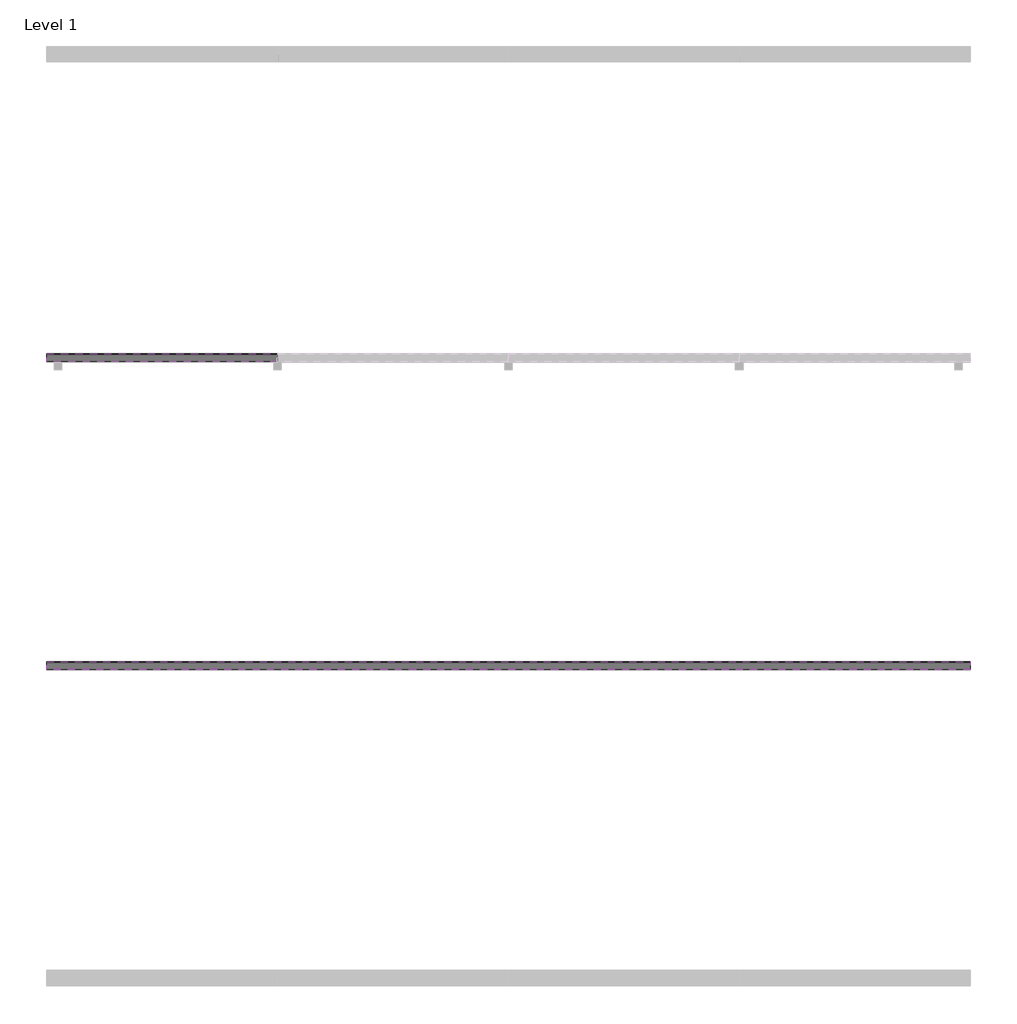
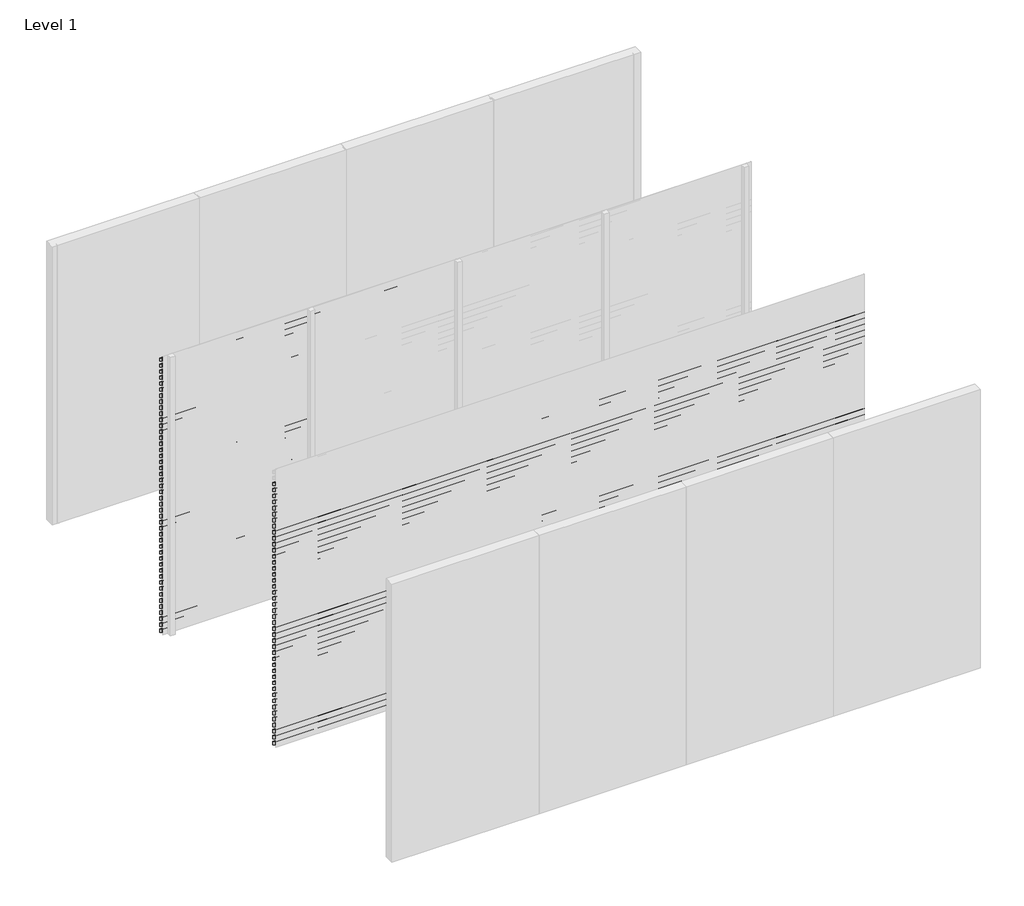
# One storey, part 4 of 10: 97 proxies.
"""IFC4 building model written with IfcOpenShell, lengths in millimetres."""

from ifc_helpers import new_model, si_unit, frame, origin, place, context, project, spatial, polyline, outline, extrude, element, save

model = new_model("IFC4")

# Units and contexts
model_context = context("Model", 3, world=origin())
ifc_project = project(units=[si_unit("LENGTHUNIT", "METRE", prefix="MILLI")], contexts=[model_context])

# Site, building, storey
site = spatial("IfcSite", under=ifc_project)
building = spatial("IfcBuilding", under=site)
storey = spatial("IfcBuildingStorey", under=building, Name="Level 1", Elevation=0.0)

# Proxies
placement = place(None, origin())
element("IfcBuildingElementProxy", 1, Name="Wall Sweeps", at=placement, inside=storey, context=model_context, shape_type="SweptSolid", body=[
    extrude(outline(polyline([(-11995.0, 2990.0), (-11995.0, 2981.2901632), (-11946.0, 2953.0), (-11946.0, 2918.0), (-11997.0, 2947.4448637), (-11997.0, 2990.0), (-11995.0, 2990.0)])), frame((0.0, 0.0, 0.0), z_axis=(1.0, 0.0, 0.0), x_axis=(0.0, 1.0, 0.0)), (0.0, 0.0, 1.0), 1500.0),
])
element("IfcBuildingElementProxy", 2, Name="Wall Sweeps", at=placement, inside=storey, context=model_context, shape_type="SweptSolid", body=[
    extrude(outline(polyline([(-11995.0, 2925.0), (-11995.0, 2916.2901632), (-11946.0, 2888.0), (-11946.0, 2853.0), (-11997.0, 2882.4448637), (-11997.0, 2925.0), (-11995.0, 2925.0)])), frame((0.0, 0.0, 0.0), z_axis=(1.0, 0.0, 0.0), x_axis=(0.0, 1.0, 0.0)), (0.0, 0.0, 1.0), 1500.0),
])
element("IfcBuildingElementProxy", 3, Name="Wall Sweeps", at=placement, inside=storey, context=model_context, shape_type="SweptSolid", body=[
    extrude(outline(polyline([(-11995.0, 2860.0), (-11995.0, 2851.2901632), (-11946.0, 2823.0), (-11946.0, 2788.0), (-11997.0, 2817.4448637), (-11997.0, 2860.0), (-11995.0, 2860.0)])), frame((0.0, 0.0, 0.0), z_axis=(1.0, 0.0, 0.0), x_axis=(0.0, 1.0, 0.0)), (0.0, 0.0, 1.0), 1500.0),
])
element("IfcBuildingElementProxy", 4, Name="Wall Sweeps", at=placement, inside=storey, context=model_context, shape_type="SweptSolid", body=[
    extrude(outline(polyline([(-11995.0, 2795.0), (-11995.0, 2786.2901632), (-11946.0, 2758.0), (-11946.0, 2723.0), (-11997.0, 2752.4448637), (-11997.0, 2795.0), (-11995.0, 2795.0)])), frame((0.0, 0.0, 0.0), z_axis=(1.0, 0.0, 0.0), x_axis=(0.0, 1.0, 0.0)), (0.0, 0.0, 1.0), 1500.0),
])
element("IfcBuildingElementProxy", 5, Name="Wall Sweeps", at=placement, inside=storey, context=model_context, shape_type="SweptSolid", body=[
    extrude(outline(polyline([(-11995.0, 2730.0), (-11995.0, 2721.2901632), (-11946.0, 2693.0), (-11946.0, 2658.0), (-11997.0, 2687.4448637), (-11997.0, 2730.0), (-11995.0, 2730.0)])), frame((0.0, 0.0, 0.0), z_axis=(1.0, 0.0, 0.0), x_axis=(0.0, 1.0, 0.0)), (0.0, 0.0, 1.0), 1500.0),
])
element("IfcBuildingElementProxy", 6, Name="Wall Sweeps", at=placement, inside=storey, context=model_context, shape_type="SweptSolid", body=[
    extrude(outline(polyline([(-11995.0, 2665.0), (-11995.0, 2656.2901632), (-11946.0, 2628.0), (-11946.0, 2593.0), (-11997.0, 2622.4448637), (-11997.0, 2665.0), (-11995.0, 2665.0)])), frame((0.0, 0.0, 0.0), z_axis=(1.0, 0.0, 0.0), x_axis=(0.0, 1.0, 0.0)), (0.0, 0.0, 1.0), 1500.0),
])
element("IfcBuildingElementProxy", 7, Name="Wall Sweeps", at=placement, inside=storey, context=model_context, shape_type="SweptSolid", body=[
    extrude(outline(polyline([(-11995.0, 2600.0), (-11995.0, 2591.2901632), (-11946.0, 2563.0), (-11946.0, 2528.0), (-11997.0, 2557.4448637), (-11997.0, 2600.0), (-11995.0, 2600.0)])), frame((0.0, 0.0, 0.0), z_axis=(1.0, 0.0, 0.0), x_axis=(0.0, 1.0, 0.0)), (0.0, 0.0, 1.0), 1500.0),
])
element("IfcBuildingElementProxy", 8, Name="Wall Sweeps", at=placement, inside=storey, context=model_context, shape_type="SweptSolid", body=[
    extrude(outline(polyline([(-11995.0, 2535.0), (-11995.0, 2526.2901632), (-11946.0, 2498.0), (-11946.0, 2463.0), (-11997.0, 2492.4448637), (-11997.0, 2535.0), (-11995.0, 2535.0)])), frame((0.0, 0.0, 0.0), z_axis=(1.0, 0.0, 0.0), x_axis=(0.0, 1.0, 0.0)), (0.0, 0.0, 1.0), 1500.0),
])
element("IfcBuildingElementProxy", 9, Name="Wall Sweeps", at=placement, inside=storey, context=model_context, shape_type="SweptSolid", body=[
    extrude(outline(polyline([(-11995.0, 2470.0), (-11995.0, 2461.2901632), (-11946.0, 2433.0), (-11946.0, 2398.0), (-11997.0, 2427.4448637), (-11997.0, 2470.0), (-11995.0, 2470.0)])), frame((0.0, 0.0, 0.0), z_axis=(1.0, 0.0, 0.0), x_axis=(0.0, 1.0, 0.0)), (0.0, 0.0, 1.0), 1500.0),
])
element("IfcBuildingElementProxy", 10, Name="Wall Sweeps", at=placement, inside=storey, context=model_context, shape_type="SweptSolid", body=[
    extrude(outline(polyline([(-11995.0, 2405.0), (-11995.0, 2396.2901632), (-11946.0, 2368.0), (-11946.0, 2333.0), (-11997.0, 2362.4448637), (-11997.0, 2405.0), (-11995.0, 2405.0)])), frame((0.0, 0.0, 0.0), z_axis=(1.0, 0.0, 0.0), x_axis=(0.0, 1.0, 0.0)), (0.0, 0.0, 1.0), 1500.0),
])
element("IfcBuildingElementProxy", 11, Name="Wall Sweeps", at=placement, inside=storey, context=model_context, shape_type="SweptSolid", body=[
    extrude(outline(polyline([(-11995.0, 2340.0), (-11995.0, 2331.2901632), (-11946.0, 2303.0), (-11946.0, 2268.0), (-11997.0, 2297.4448637), (-11997.0, 2340.0), (-11995.0, 2340.0)])), frame((0.0, 0.0, 0.0), z_axis=(1.0, 0.0, 0.0), x_axis=(0.0, 1.0, 0.0)), (0.0, 0.0, 1.0), 1500.0),
])
element("IfcBuildingElementProxy", 12, Name="Wall Sweeps", at=placement, inside=storey, context=model_context, shape_type="SweptSolid", body=[
    extrude(outline(polyline([(-11995.0, 2275.0), (-11995.0, 2266.2901632), (-11946.0, 2238.0), (-11946.0, 2203.0), (-11997.0, 2232.4448637), (-11997.0, 2275.0), (-11995.0, 2275.0)])), frame((0.0, 0.0, 0.0), z_axis=(1.0, 0.0, 0.0), x_axis=(0.0, 1.0, 0.0)), (0.0, 0.0, 1.0), 1500.0),
])
element("IfcBuildingElementProxy", 13, Name="Wall Sweeps", at=placement, inside=storey, context=model_context, shape_type="SweptSolid", body=[
    extrude(outline(polyline([(-11995.0, 2210.0), (-11995.0, 2201.2901632), (-11946.0, 2173.0), (-11946.0, 2138.0), (-11997.0, 2167.4448637), (-11997.0, 2210.0), (-11995.0, 2210.0)])), frame((0.0, 0.0, 0.0), z_axis=(1.0, 0.0, 0.0), x_axis=(0.0, 1.0, 0.0)), (0.0, 0.0, 1.0), 1500.0),
])
element("IfcBuildingElementProxy", 14, Name="Wall Sweeps", at=placement, inside=storey, context=model_context, shape_type="SweptSolid", body=[
    extrude(outline(polyline([(-11995.0, 2145.0), (-11995.0, 2136.2901632), (-11946.0, 2108.0), (-11946.0, 2073.0), (-11997.0, 2102.4448637), (-11997.0, 2145.0), (-11995.0, 2145.0)])), frame((0.0, 0.0, 0.0), z_axis=(1.0, 0.0, 0.0), x_axis=(0.0, 1.0, 0.0)), (0.0, 0.0, 1.0), 1500.0),
])
element("IfcBuildingElementProxy", 15, Name="Wall Sweeps", at=placement, inside=storey, context=model_context, shape_type="SweptSolid", body=[
    extrude(outline(polyline([(-11995.0, 2080.0), (-11995.0, 2071.2901632), (-11946.0, 2043.0), (-11946.0, 2008.0), (-11997.0, 2037.4448637), (-11997.0, 2080.0), (-11995.0, 2080.0)])), frame((0.0, 0.0, 0.0), z_axis=(1.0, 0.0, 0.0), x_axis=(0.0, 1.0, 0.0)), (0.0, 0.0, 1.0), 1500.0),
])
element("IfcBuildingElementProxy", 16, Name="Wall Sweeps", at=placement, inside=storey, context=model_context, shape_type="SweptSolid", body=[
    extrude(outline(polyline([(-11995.0, 2015.0), (-11995.0, 2006.2901632), (-11946.0, 1978.0), (-11946.0, 1943.0), (-11997.0, 1972.4448637), (-11997.0, 2015.0), (-11995.0, 2015.0)])), frame((0.0, 0.0, 0.0), z_axis=(1.0, 0.0, 0.0), x_axis=(0.0, 1.0, 0.0)), (0.0, 0.0, 1.0), 1500.0),
])
element("IfcBuildingElementProxy", 17, Name="Wall Sweeps", at=placement, inside=storey, context=model_context, shape_type="SweptSolid", body=[
    extrude(outline(polyline([(-11995.0, 1950.0), (-11995.0, 1941.2901632), (-11946.0, 1913.0), (-11946.0, 1878.0), (-11997.0, 1907.4448637), (-11997.0, 1950.0), (-11995.0, 1950.0)])), frame((0.0, 0.0, 0.0), z_axis=(1.0, 0.0, 0.0), x_axis=(0.0, 1.0, 0.0)), (0.0, 0.0, 1.0), 1500.0),
])
element("IfcBuildingElementProxy", 18, Name="Wall Sweeps", at=placement, inside=storey, context=model_context, shape_type="SweptSolid", body=[
    extrude(outline(polyline([(-11995.0, 1885.0), (-11995.0, 1876.2901632), (-11946.0, 1848.0), (-11946.0, 1813.0), (-11997.0, 1842.4448637), (-11997.0, 1885.0), (-11995.0, 1885.0)])), frame((0.0, 0.0, 0.0), z_axis=(1.0, 0.0, 0.0), x_axis=(0.0, 1.0, 0.0)), (0.0, 0.0, 1.0), 1500.0),
])
element("IfcBuildingElementProxy", 19, Name="Wall Sweeps", at=placement, inside=storey, context=model_context, shape_type="SweptSolid", body=[
    extrude(outline(polyline([(-11995.0, 1820.0), (-11995.0, 1811.2901632), (-11946.0, 1783.0), (-11946.0, 1748.0), (-11997.0, 1777.4448637), (-11997.0, 1820.0), (-11995.0, 1820.0)])), frame((0.0, 0.0, 0.0), z_axis=(1.0, 0.0, 0.0), x_axis=(0.0, 1.0, 0.0)), (0.0, 0.0, 1.0), 1500.0),
])
element("IfcBuildingElementProxy", 20, Name="Wall Sweeps", at=placement, inside=storey, context=model_context, shape_type="SweptSolid", body=[
    extrude(outline(polyline([(-11995.0, 1755.0), (-11995.0, 1746.2901632), (-11946.0, 1718.0), (-11946.0, 1683.0), (-11997.0, 1712.4448637), (-11997.0, 1755.0), (-11995.0, 1755.0)])), frame((0.0, 0.0, 0.0), z_axis=(1.0, 0.0, 0.0), x_axis=(0.0, 1.0, 0.0)), (0.0, 0.0, 1.0), 1500.0),
])
element("IfcBuildingElementProxy", 21, Name="Wall Sweeps", at=placement, inside=storey, context=model_context, shape_type="SweptSolid", body=[
    extrude(outline(polyline([(-11995.0, 1690.0), (-11995.0, 1681.2901632), (-11946.0, 1653.0), (-11946.0, 1618.0), (-11997.0, 1647.4448637), (-11997.0, 1690.0), (-11995.0, 1690.0)])), frame((0.0, 0.0, 0.0), z_axis=(1.0, 0.0, 0.0), x_axis=(0.0, 1.0, 0.0)), (0.0, 0.0, 1.0), 1500.0),
])
element("IfcBuildingElementProxy", 22, Name="Wall Sweeps", at=placement, inside=storey, context=model_context, shape_type="SweptSolid", body=[
    extrude(outline(polyline([(-11995.0, 1625.0), (-11995.0, 1616.2901632), (-11946.0, 1588.0), (-11946.0, 1553.0), (-11997.0, 1582.4448637), (-11997.0, 1625.0), (-11995.0, 1625.0)])), frame((0.0, 0.0, 0.0), z_axis=(1.0, 0.0, 0.0), x_axis=(0.0, 1.0, 0.0)), (0.0, 0.0, 1.0), 1500.0),
])
element("IfcBuildingElementProxy", 23, Name="Wall Sweeps", at=placement, inside=storey, context=model_context, shape_type="SweptSolid", body=[
    extrude(outline(polyline([(-11995.0, 1560.0), (-11995.0, 1551.2901632), (-11946.0, 1523.0), (-11946.0, 1488.0), (-11997.0, 1517.4448637), (-11997.0, 1560.0), (-11995.0, 1560.0)])), frame((0.0, 0.0, 0.0), z_axis=(1.0, 0.0, 0.0), x_axis=(0.0, 1.0, 0.0)), (0.0, 0.0, 1.0), 1500.0),
])
element("IfcBuildingElementProxy", 24, Name="Wall Sweeps", at=placement, inside=storey, context=model_context, shape_type="SweptSolid", body=[
    extrude(outline(polyline([(-11995.0, 1495.0), (-11995.0, 1486.2901632), (-11946.0, 1458.0), (-11946.0, 1423.0), (-11997.0, 1452.4448637), (-11997.0, 1495.0), (-11995.0, 1495.0)])), frame((0.0, 0.0, 0.0), z_axis=(1.0, 0.0, 0.0), x_axis=(0.0, 1.0, 0.0)), (0.0, 0.0, 1.0), 1500.0),
])
element("IfcBuildingElementProxy", 25, Name="Wall Sweeps", at=placement, inside=storey, context=model_context, shape_type="SweptSolid", body=[
    extrude(outline(polyline([(-11995.0, 1430.0), (-11995.0, 1421.2901632), (-11946.0, 1393.0), (-11946.0, 1358.0), (-11997.0, 1387.4448637), (-11997.0, 1430.0), (-11995.0, 1430.0)])), frame((0.0, 0.0, 0.0), z_axis=(1.0, 0.0, 0.0), x_axis=(0.0, 1.0, 0.0)), (0.0, 0.0, 1.0), 1500.0),
])
element("IfcBuildingElementProxy", 26, Name="Wall Sweeps", at=placement, inside=storey, context=model_context, shape_type="SweptSolid", body=[
    extrude(outline(polyline([(-11995.0, 1365.0), (-11995.0, 1356.2901632), (-11946.0, 1328.0), (-11946.0, 1293.0), (-11997.0, 1322.4448637), (-11997.0, 1365.0), (-11995.0, 1365.0)])), frame((0.0, 0.0, 0.0), z_axis=(1.0, 0.0, 0.0), x_axis=(0.0, 1.0, 0.0)), (0.0, 0.0, 1.0), 1500.0),
])
element("IfcBuildingElementProxy", 27, Name="Wall Sweeps", at=placement, inside=storey, context=model_context, shape_type="SweptSolid", body=[
    extrude(outline(polyline([(-11995.0, 1300.0), (-11995.0, 1291.2901632), (-11946.0, 1263.0), (-11946.0, 1228.0), (-11997.0, 1257.4448637), (-11997.0, 1300.0), (-11995.0, 1300.0)])), frame((0.0, 0.0, 0.0), z_axis=(1.0, 0.0, 0.0), x_axis=(0.0, 1.0, 0.0)), (0.0, 0.0, 1.0), 1500.0),
])
element("IfcBuildingElementProxy", 28, Name="Wall Sweeps", at=placement, inside=storey, context=model_context, shape_type="SweptSolid", body=[
    extrude(outline(polyline([(-11995.0, 1235.0), (-11995.0, 1226.2901632), (-11946.0, 1198.0), (-11946.0, 1163.0), (-11997.0, 1192.4448637), (-11997.0, 1235.0), (-11995.0, 1235.0)])), frame((0.0, 0.0, 0.0), z_axis=(1.0, 0.0, 0.0), x_axis=(0.0, 1.0, 0.0)), (0.0, 0.0, 1.0), 1500.0),
])
element("IfcBuildingElementProxy", 29, Name="Wall Sweeps", at=placement, inside=storey, context=model_context, shape_type="SweptSolid", body=[
    extrude(outline(polyline([(-11995.0, 1170.0), (-11995.0, 1161.2901632), (-11946.0, 1133.0), (-11946.0, 1098.0), (-11997.0, 1127.4448637), (-11997.0, 1170.0), (-11995.0, 1170.0)])), frame((0.0, 0.0, 0.0), z_axis=(1.0, 0.0, 0.0), x_axis=(0.0, 1.0, 0.0)), (0.0, 0.0, 1.0), 1500.0),
])
element("IfcBuildingElementProxy", 30, Name="Wall Sweeps", at=placement, inside=storey, context=model_context, shape_type="SweptSolid", body=[
    extrude(outline(polyline([(-11995.0, 1105.0), (-11995.0, 1096.2901632), (-11946.0, 1068.0), (-11946.0, 1033.0), (-11997.0, 1062.4448637), (-11997.0, 1105.0), (-11995.0, 1105.0)])), frame((0.0, 0.0, 0.0), z_axis=(1.0, 0.0, 0.0), x_axis=(0.0, 1.0, 0.0)), (0.0, 0.0, 1.0), 1500.0),
])
element("IfcBuildingElementProxy", 31, Name="Wall Sweeps", at=placement, inside=storey, context=model_context, shape_type="SweptSolid", body=[
    extrude(outline(polyline([(-11995.0, 1040.0), (-11995.0, 1031.2901632), (-11946.0, 1003.0), (-11946.0, 968.0), (-11997.0, 997.4448637), (-11997.0, 1040.0), (-11995.0, 1040.0)])), frame((0.0, 0.0, 0.0), z_axis=(1.0, 0.0, 0.0), x_axis=(0.0, 1.0, 0.0)), (0.0, 0.0, 1.0), 1500.0),
])
element("IfcBuildingElementProxy", 32, Name="Wall Sweeps", at=placement, inside=storey, context=model_context, shape_type="SweptSolid", body=[
    extrude(outline(polyline([(-11995.0, 975.0), (-11995.0, 966.2901632), (-11946.0, 938.0), (-11946.0, 903.0), (-11997.0, 932.4448637), (-11997.0, 975.0), (-11995.0, 975.0)])), frame((0.0, 0.0, 0.0), z_axis=(1.0, 0.0, 0.0), x_axis=(0.0, 1.0, 0.0)), (0.0, 0.0, 1.0), 1500.0),
])
element("IfcBuildingElementProxy", 33, Name="Wall Sweeps", at=placement, inside=storey, context=model_context, shape_type="SweptSolid", body=[
    extrude(outline(polyline([(-11995.0, 910.0), (-11995.0, 901.2901632), (-11946.0, 873.0), (-11946.0, 838.0), (-11997.0, 867.4448637), (-11997.0, 910.0), (-11995.0, 910.0)])), frame((0.0, 0.0, 0.0), z_axis=(1.0, 0.0, 0.0), x_axis=(0.0, 1.0, 0.0)), (0.0, 0.0, 1.0), 1500.0),
])
element("IfcBuildingElementProxy", 34, Name="Wall Sweeps", at=placement, inside=storey, context=model_context, shape_type="SweptSolid", body=[
    extrude(outline(polyline([(-11995.0, 845.0), (-11995.0, 836.2901632), (-11946.0, 808.0), (-11946.0, 773.0), (-11997.0, 802.4448637), (-11997.0, 845.0), (-11995.0, 845.0)])), frame((0.0, 0.0, 0.0), z_axis=(1.0, 0.0, 0.0), x_axis=(0.0, 1.0, 0.0)), (0.0, 0.0, 1.0), 1500.0),
])
element("IfcBuildingElementProxy", 35, Name="Wall Sweeps", at=placement, inside=storey, context=model_context, shape_type="SweptSolid", body=[
    extrude(outline(polyline([(-11995.0, 780.0), (-11995.0, 771.2901632), (-11946.0, 743.0), (-11946.0, 708.0), (-11997.0, 737.4448637), (-11997.0, 780.0), (-11995.0, 780.0)])), frame((0.0, 0.0, 0.0), z_axis=(1.0, 0.0, 0.0), x_axis=(0.0, 1.0, 0.0)), (0.0, 0.0, 1.0), 1500.0),
])
element("IfcBuildingElementProxy", 36, Name="Wall Sweeps", at=placement, inside=storey, context=model_context, shape_type="SweptSolid", body=[
    extrude(outline(polyline([(-11995.0, 715.0), (-11995.0, 706.2901632), (-11946.0, 678.0), (-11946.0, 643.0), (-11997.0, 672.4448637), (-11997.0, 715.0), (-11995.0, 715.0)])), frame((0.0, 0.0, 0.0), z_axis=(1.0, 0.0, 0.0), x_axis=(0.0, 1.0, 0.0)), (0.0, 0.0, 1.0), 1500.0),
])
element("IfcBuildingElementProxy", 37, Name="Wall Sweeps", at=placement, inside=storey, context=model_context, shape_type="SweptSolid", body=[
    extrude(outline(polyline([(-11995.0, 650.0), (-11995.0, 641.2901632), (-11946.0, 613.0), (-11946.0, 578.0), (-11997.0, 607.4448637), (-11997.0, 650.0), (-11995.0, 650.0)])), frame((0.0, 0.0, 0.0), z_axis=(1.0, 0.0, 0.0), x_axis=(0.0, 1.0, 0.0)), (0.0, 0.0, 1.0), 1500.0),
])
element("IfcBuildingElementProxy", 38, Name="Wall Sweeps", at=placement, inside=storey, context=model_context, shape_type="SweptSolid", body=[
    extrude(outline(polyline([(-11995.0, 585.0), (-11995.0, 576.2901632), (-11946.0, 548.0), (-11946.0, 513.0), (-11997.0, 542.4448637), (-11997.0, 585.0), (-11995.0, 585.0)])), frame((0.0, 0.0, 0.0), z_axis=(1.0, 0.0, 0.0), x_axis=(0.0, 1.0, 0.0)), (0.0, 0.0, 1.0), 1500.0),
])
element("IfcBuildingElementProxy", 39, Name="Wall Sweeps", at=placement, inside=storey, context=model_context, shape_type="SweptSolid", body=[
    extrude(outline(polyline([(-11995.0, 520.0), (-11995.0, 511.2901632), (-11946.0, 483.0), (-11946.0, 448.0), (-11997.0, 477.4448637), (-11997.0, 520.0), (-11995.0, 520.0)])), frame((0.0, 0.0, 0.0), z_axis=(1.0, 0.0, 0.0), x_axis=(0.0, 1.0, 0.0)), (0.0, 0.0, 1.0), 1500.0),
])
element("IfcBuildingElementProxy", 40, Name="Wall Sweeps", at=placement, inside=storey, context=model_context, shape_type="SweptSolid", body=[
    extrude(outline(polyline([(-11995.0, 455.0), (-11995.0, 446.2901632), (-11946.0, 418.0), (-11946.0, 383.0), (-11997.0, 412.4448637), (-11997.0, 455.0), (-11995.0, 455.0)])), frame((0.0, 0.0, 0.0), z_axis=(1.0, 0.0, 0.0), x_axis=(0.0, 1.0, 0.0)), (0.0, 0.0, 1.0), 1500.0),
])
element("IfcBuildingElementProxy", 41, Name="Wall Sweeps", at=placement, inside=storey, context=model_context, shape_type="SweptSolid", body=[
    extrude(outline(polyline([(-11995.0, 390.0), (-11995.0, 381.2901632), (-11946.0, 353.0), (-11946.0, 318.0), (-11997.0, 347.4448637), (-11997.0, 390.0), (-11995.0, 390.0)])), frame((0.0, 0.0, 0.0), z_axis=(1.0, 0.0, 0.0), x_axis=(0.0, 1.0, 0.0)), (0.0, 0.0, 1.0), 1500.0),
])
element("IfcBuildingElementProxy", 42, Name="Wall Sweeps", at=placement, inside=storey, context=model_context, shape_type="SweptSolid", body=[
    extrude(outline(polyline([(-11995.0, 325.0), (-11995.0, 316.2901632), (-11946.0, 288.0), (-11946.0, 253.0), (-11997.0, 282.4448637), (-11997.0, 325.0), (-11995.0, 325.0)])), frame((0.0, 0.0, 0.0), z_axis=(1.0, 0.0, 0.0), x_axis=(0.0, 1.0, 0.0)), (0.0, 0.0, 1.0), 1500.0),
])
element("IfcBuildingElementProxy", 43, Name="Wall Sweeps", at=placement, inside=storey, context=model_context, shape_type="SweptSolid", body=[
    extrude(outline(polyline([(-11995.0, 260.0), (-11995.0, 251.2901632), (-11946.0, 223.0), (-11946.0, 188.0), (-11997.0, 217.4448637), (-11997.0, 260.0), (-11995.0, 260.0)])), frame((0.0, 0.0, 0.0), z_axis=(1.0, 0.0, 0.0), x_axis=(0.0, 1.0, 0.0)), (0.0, 0.0, 1.0), 1500.0),
])
element("IfcBuildingElementProxy", 44, Name="Wall Sweeps", at=placement, inside=storey, context=model_context, shape_type="SweptSolid", body=[
    extrude(outline(polyline([(-11995.0, 195.0), (-11995.0, 186.2901632), (-11946.0, 158.0), (-11946.0, 123.0), (-11997.0, 152.4448637), (-11997.0, 195.0), (-11995.0, 195.0)])), frame((0.0, 0.0, 0.0), z_axis=(1.0, 0.0, 0.0), x_axis=(0.0, 1.0, 0.0)), (0.0, 0.0, 1.0), 1500.0),
])
element("IfcBuildingElementProxy", 45, Name="Wall Sweeps", at=placement, inside=storey, context=model_context, shape_type="SweptSolid", body=[
    extrude(outline(polyline([(-11995.0, 130.0), (-11995.0, 121.2901632), (-11946.0, 93.0), (-11946.0, 58.0), (-11997.0, 87.4448637), (-11997.0, 130.0), (-11995.0, 130.0)])), frame((0.0, 0.0, 0.0), z_axis=(1.0, 0.0, 0.0), x_axis=(0.0, 1.0, 0.0)), (0.0, 0.0, 1.0), 1500.0),
])
element("IfcBuildingElementProxy", 46, Name="Wall Sweeps", at=placement, inside=storey, context=model_context, shape_type="SweptSolid", body=[
    extrude(outline(polyline([(-11995.0, 65.0), (-11995.0, 56.2901632), (-11946.0, 28.0), (-11946.0, -7.0), (-11997.0, 22.4448637), (-11997.0, 65.0), (-11995.0, 65.0)])), frame((0.0, 0.0, 0.0), z_axis=(1.0, 0.0, 0.0), x_axis=(0.0, 1.0, 0.0)), (0.0, 0.0, 1.0), 1500.0),
])
element("IfcBuildingElementProxy", 47, Name="Wall Sweeps", at=placement, inside=storey, context=model_context, shape_type="SweptSolid", body=[
    extrude(outline(polyline([(-11995.0, 2990.0), (-11995.0, 2981.2901632), (-11946.0, 2953.0), (-11946.0, 2918.0), (-11997.0, 2947.4448637), (-11997.0, 2990.0), (-11995.0, 2990.0)])), frame((1500.0, 0.0, 0.0), z_axis=(1.0, 0.0, 0.0), x_axis=(0.0, 1.0, 0.0)), (0.0, 0.0, 1.0), 1500.0),
])
element("IfcBuildingElementProxy", 48, Name="Wall Sweeps", at=placement, inside=storey, context=model_context, shape_type="SweptSolid", body=[
    extrude(outline(polyline([(-11995.0, 2925.0), (-11995.0, 2916.2901632), (-11946.0, 2888.0), (-11946.0, 2853.0), (-11997.0, 2882.4448637), (-11997.0, 2925.0), (-11995.0, 2925.0)])), frame((1500.0, 0.0, 0.0), z_axis=(1.0, 0.0, 0.0), x_axis=(0.0, 1.0, 0.0)), (0.0, 0.0, 1.0), 1500.0),
])
element("IfcBuildingElementProxy", 49, Name="Wall Sweeps", at=placement, inside=storey, context=model_context, shape_type="SweptSolid", body=[
    extrude(outline(polyline([(-11995.0, 2860.0), (-11995.0, 2851.2901632), (-11946.0, 2823.0), (-11946.0, 2788.0), (-11997.0, 2817.4448637), (-11997.0, 2860.0), (-11995.0, 2860.0)])), frame((1500.0, 0.0, 0.0), z_axis=(1.0, 0.0, 0.0), x_axis=(0.0, 1.0, 0.0)), (0.0, 0.0, 1.0), 1500.0),
])
element("IfcBuildingElementProxy", 50, Name="Wall Sweeps", at=placement, inside=storey, context=model_context, shape_type="SweptSolid", body=[
    extrude(outline(polyline([(-11995.0, 2795.0), (-11995.0, 2786.2901632), (-11946.0, 2758.0), (-11946.0, 2723.0), (-11997.0, 2752.4448637), (-11997.0, 2795.0), (-11995.0, 2795.0)])), frame((1500.0, 0.0, 0.0), z_axis=(1.0, 0.0, 0.0), x_axis=(0.0, 1.0, 0.0)), (0.0, 0.0, 1.0), 1500.0),
])
element("IfcBuildingElementProxy", 51, Name="Wall Sweeps", at=placement, inside=storey, context=model_context, shape_type="SweptSolid", body=[
    extrude(outline(polyline([(-11995.0, 2730.0), (-11995.0, 2721.2901632), (-11946.0, 2693.0), (-11946.0, 2658.0), (-11997.0, 2687.4448637), (-11997.0, 2730.0), (-11995.0, 2730.0)])), frame((1500.0, 0.0, 0.0), z_axis=(1.0, 0.0, 0.0), x_axis=(0.0, 1.0, 0.0)), (0.0, 0.0, 1.0), 1500.0),
])
element("IfcBuildingElementProxy", 52, Name="Wall Sweeps", at=placement, inside=storey, context=model_context, shape_type="SweptSolid", body=[
    extrude(outline(polyline([(-11995.0, 2665.0), (-11995.0, 2656.2901632), (-11946.0, 2628.0), (-11946.0, 2593.0), (-11997.0, 2622.4448637), (-11997.0, 2665.0), (-11995.0, 2665.0)])), frame((1500.0, 0.0, 0.0), z_axis=(1.0, 0.0, 0.0), x_axis=(0.0, 1.0, 0.0)), (0.0, 0.0, 1.0), 1500.0),
])
element("IfcBuildingElementProxy", 53, Name="Wall Sweeps", at=placement, inside=storey, context=model_context, shape_type="SweptSolid", body=[
    extrude(outline(polyline([(-11995.0, 2600.0), (-11995.0, 2591.2901632), (-11946.0, 2563.0), (-11946.0, 2528.0), (-11997.0, 2557.4448637), (-11997.0, 2600.0), (-11995.0, 2600.0)])), frame((1500.0, 0.0, 0.0), z_axis=(1.0, 0.0, 0.0), x_axis=(0.0, 1.0, 0.0)), (0.0, 0.0, 1.0), 1500.0),
])
element("IfcBuildingElementProxy", 54, Name="Wall Sweeps", at=placement, inside=storey, context=model_context, shape_type="SweptSolid", body=[
    extrude(outline(polyline([(-13995.0, 2860.0), (-13995.0, 2851.2901632), (-13946.0, 2823.0), (-13946.0, 2788.0), (-13997.0, 2817.4448637), (-13997.0, 2860.0), (-13995.0, 2860.0)])), frame((0.0, 0.0, 0.0), z_axis=(1.0, 0.0, 0.0), x_axis=(0.0, 1.0, 0.0)), (0.0, 0.0, 1.0), 6000.0),
])
element("IfcBuildingElementProxy", 55, Name="Wall Sweeps", at=placement, inside=storey, context=model_context, shape_type="SweptSolid", body=[
    extrude(outline(polyline([(-13995.0, 2795.0), (-13995.0, 2786.2901632), (-13946.0, 2758.0), (-13946.0, 2723.0), (-13997.0, 2752.4448637), (-13997.0, 2795.0), (-13995.0, 2795.0)])), frame((0.0, 0.0, 0.0), z_axis=(1.0, 0.0, 0.0), x_axis=(0.0, 1.0, 0.0)), (0.0, 0.0, 1.0), 6000.0),
])
element("IfcBuildingElementProxy", 56, Name="Wall Sweeps", at=placement, inside=storey, context=model_context, shape_type="SweptSolid", body=[
    extrude(outline(polyline([(-13995.0, 2730.0), (-13995.0, 2721.2901632), (-13946.0, 2693.0), (-13946.0, 2658.0), (-13997.0, 2687.4448637), (-13997.0, 2730.0), (-13995.0, 2730.0)])), frame((0.0, 0.0, 0.0), z_axis=(1.0, 0.0, 0.0), x_axis=(0.0, 1.0, 0.0)), (0.0, 0.0, 1.0), 6000.0),
])
element("IfcBuildingElementProxy", 57, Name="Wall Sweeps", at=placement, inside=storey, context=model_context, shape_type="SweptSolid", body=[
    extrude(outline(polyline([(-13995.0, 2665.0), (-13995.0, 2656.2901632), (-13946.0, 2628.0), (-13946.0, 2593.0), (-13997.0, 2622.4448637), (-13997.0, 2665.0), (-13995.0, 2665.0)])), frame((0.0, 0.0, 0.0), z_axis=(1.0, 0.0, 0.0), x_axis=(0.0, 1.0, 0.0)), (0.0, 0.0, 1.0), 6000.0),
])
element("IfcBuildingElementProxy", 58, Name="Wall Sweeps", at=placement, inside=storey, context=model_context, shape_type="SweptSolid", body=[
    extrude(outline(polyline([(-13995.0, 2600.0), (-13995.0, 2591.2901632), (-13946.0, 2563.0), (-13946.0, 2528.0), (-13997.0, 2557.4448637), (-13997.0, 2600.0), (-13995.0, 2600.0)])), frame((0.0, 0.0, 0.0), z_axis=(1.0, 0.0, 0.0), x_axis=(0.0, 1.0, 0.0)), (0.0, 0.0, 1.0), 6000.0),
])
element("IfcBuildingElementProxy", 59, Name="Wall Sweeps", at=placement, inside=storey, context=model_context, shape_type="SweptSolid", body=[
    extrude(outline(polyline([(-13995.0, 2535.0), (-13995.0, 2526.2901632), (-13946.0, 2498.0), (-13946.0, 2463.0), (-13997.0, 2492.4448637), (-13997.0, 2535.0), (-13995.0, 2535.0)])), frame((0.0, 0.0, 0.0), z_axis=(1.0, 0.0, 0.0), x_axis=(0.0, 1.0, 0.0)), (0.0, 0.0, 1.0), 6000.0),
])
element("IfcBuildingElementProxy", 60, Name="Wall Sweeps", at=placement, inside=storey, context=model_context, shape_type="SweptSolid", body=[
    extrude(outline(polyline([(-13995.0, 2470.0), (-13995.0, 2461.2901632), (-13946.0, 2433.0), (-13946.0, 2398.0), (-13997.0, 2427.4448637), (-13997.0, 2470.0), (-13995.0, 2470.0)])), frame((0.0, 0.0, 0.0), z_axis=(1.0, 0.0, 0.0), x_axis=(0.0, 1.0, 0.0)), (0.0, 0.0, 1.0), 6000.0),
])
element("IfcBuildingElementProxy", 61, Name="Wall Sweeps", at=placement, inside=storey, context=model_context, shape_type="SweptSolid", body=[
    extrude(outline(polyline([(-13995.0, 2405.0), (-13995.0, 2396.2901632), (-13946.0, 2368.0), (-13946.0, 2333.0), (-13997.0, 2362.4448637), (-13997.0, 2405.0), (-13995.0, 2405.0)])), frame((0.0, 0.0, 0.0), z_axis=(1.0, 0.0, 0.0), x_axis=(0.0, 1.0, 0.0)), (0.0, 0.0, 1.0), 6000.0),
])
element("IfcBuildingElementProxy", 62, Name="Wall Sweeps", at=placement, inside=storey, context=model_context, shape_type="SweptSolid", body=[
    extrude(outline(polyline([(-13995.0, 2340.0), (-13995.0, 2331.2901632), (-13946.0, 2303.0), (-13946.0, 2268.0), (-13997.0, 2297.4448637), (-13997.0, 2340.0), (-13995.0, 2340.0)])), frame((0.0, 0.0, 0.0), z_axis=(1.0, 0.0, 0.0), x_axis=(0.0, 1.0, 0.0)), (0.0, 0.0, 1.0), 6000.0),
])
element("IfcBuildingElementProxy", 63, Name="Wall Sweeps", at=placement, inside=storey, context=model_context, shape_type="SweptSolid", body=[
    extrude(outline(polyline([(-13995.0, 2275.0), (-13995.0, 2266.2901632), (-13946.0, 2238.0), (-13946.0, 2203.0), (-13997.0, 2232.4448637), (-13997.0, 2275.0), (-13995.0, 2275.0)])), frame((0.0, 0.0, 0.0), z_axis=(1.0, 0.0, 0.0), x_axis=(0.0, 1.0, 0.0)), (0.0, 0.0, 1.0), 6000.0),
])
element("IfcBuildingElementProxy", 64, Name="Wall Sweeps", at=placement, inside=storey, context=model_context, shape_type="SweptSolid", body=[
    extrude(outline(polyline([(-13995.0, 2210.0), (-13995.0, 2201.2901632), (-13946.0, 2173.0), (-13946.0, 2138.0), (-13997.0, 2167.4448637), (-13997.0, 2210.0), (-13995.0, 2210.0)])), frame((0.0, 0.0, 0.0), z_axis=(1.0, 0.0, 0.0), x_axis=(0.0, 1.0, 0.0)), (0.0, 0.0, 1.0), 6000.0),
])
element("IfcBuildingElementProxy", 65, Name="Wall Sweeps", at=placement, inside=storey, context=model_context, shape_type="SweptSolid", body=[
    extrude(outline(polyline([(-13995.0, 2145.0), (-13995.0, 2136.2901632), (-13946.0, 2108.0), (-13946.0, 2073.0), (-13997.0, 2102.4448637), (-13997.0, 2145.0), (-13995.0, 2145.0)])), frame((0.0, 0.0, 0.0), z_axis=(1.0, 0.0, 0.0), x_axis=(0.0, 1.0, 0.0)), (0.0, 0.0, 1.0), 6000.0),
])
element("IfcBuildingElementProxy", 66, Name="Wall Sweeps", at=placement, inside=storey, context=model_context, shape_type="SweptSolid", body=[
    extrude(outline(polyline([(-13995.0, 2080.0), (-13995.0, 2071.2901632), (-13946.0, 2043.0), (-13946.0, 2008.0), (-13997.0, 2037.4448637), (-13997.0, 2080.0), (-13995.0, 2080.0)])), frame((0.0, 0.0, 0.0), z_axis=(1.0, 0.0, 0.0), x_axis=(0.0, 1.0, 0.0)), (0.0, 0.0, 1.0), 6000.0),
])
element("IfcBuildingElementProxy", 67, Name="Wall Sweeps", at=placement, inside=storey, context=model_context, shape_type="SweptSolid", body=[
    extrude(outline(polyline([(-13995.0, 2015.0), (-13995.0, 2006.2901632), (-13946.0, 1978.0), (-13946.0, 1943.0), (-13997.0, 1972.4448637), (-13997.0, 2015.0), (-13995.0, 2015.0)])), frame((0.0, 0.0, 0.0), z_axis=(1.0, 0.0, 0.0), x_axis=(0.0, 1.0, 0.0)), (0.0, 0.0, 1.0), 6000.0),
])
element("IfcBuildingElementProxy", 68, Name="Wall Sweeps", at=placement, inside=storey, context=model_context, shape_type="SweptSolid", body=[
    extrude(outline(polyline([(-13995.0, 1950.0), (-13995.0, 1941.2901632), (-13946.0, 1913.0), (-13946.0, 1878.0), (-13997.0, 1907.4448637), (-13997.0, 1950.0), (-13995.0, 1950.0)])), frame((0.0, 0.0, 0.0), z_axis=(1.0, 0.0, 0.0), x_axis=(0.0, 1.0, 0.0)), (0.0, 0.0, 1.0), 6000.0),
])
element("IfcBuildingElementProxy", 69, Name="Wall Sweeps", at=placement, inside=storey, context=model_context, shape_type="SweptSolid", body=[
    extrude(outline(polyline([(-13995.0, 1885.0), (-13995.0, 1876.2901632), (-13946.0, 1848.0), (-13946.0, 1813.0), (-13997.0, 1842.4448637), (-13997.0, 1885.0), (-13995.0, 1885.0)])), frame((0.0, 0.0, 0.0), z_axis=(1.0, 0.0, 0.0), x_axis=(0.0, 1.0, 0.0)), (0.0, 0.0, 1.0), 6000.0),
])
element("IfcBuildingElementProxy", 70, Name="Wall Sweeps", at=placement, inside=storey, context=model_context, shape_type="SweptSolid", body=[
    extrude(outline(polyline([(-13995.0, 1820.0), (-13995.0, 1811.2901632), (-13946.0, 1783.0), (-13946.0, 1748.0), (-13997.0, 1777.4448637), (-13997.0, 1820.0), (-13995.0, 1820.0)])), frame((0.0, 0.0, 0.0), z_axis=(1.0, 0.0, 0.0), x_axis=(0.0, 1.0, 0.0)), (0.0, 0.0, 1.0), 6000.0),
])
element("IfcBuildingElementProxy", 71, Name="Wall Sweeps", at=placement, inside=storey, context=model_context, shape_type="SweptSolid", body=[
    extrude(outline(polyline([(-13995.0, 1755.0), (-13995.0, 1746.2901632), (-13946.0, 1718.0), (-13946.0, 1683.0), (-13997.0, 1712.4448637), (-13997.0, 1755.0), (-13995.0, 1755.0)])), frame((0.0, 0.0, 0.0), z_axis=(1.0, 0.0, 0.0), x_axis=(0.0, 1.0, 0.0)), (0.0, 0.0, 1.0), 6000.0),
])
element("IfcBuildingElementProxy", 72, Name="Wall Sweeps", at=placement, inside=storey, context=model_context, shape_type="SweptSolid", body=[
    extrude(outline(polyline([(-13995.0, 1690.0), (-13995.0, 1681.2901632), (-13946.0, 1653.0), (-13946.0, 1618.0), (-13997.0, 1647.4448637), (-13997.0, 1690.0), (-13995.0, 1690.0)])), frame((0.0, 0.0, 0.0), z_axis=(1.0, 0.0, 0.0), x_axis=(0.0, 1.0, 0.0)), (0.0, 0.0, 1.0), 6000.0),
])
element("IfcBuildingElementProxy", 73, Name="Wall Sweeps", at=placement, inside=storey, context=model_context, shape_type="SweptSolid", body=[
    extrude(outline(polyline([(-13995.0, 1625.0), (-13995.0, 1616.2901632), (-13946.0, 1588.0), (-13946.0, 1553.0), (-13997.0, 1582.4448637), (-13997.0, 1625.0), (-13995.0, 1625.0)])), frame((0.0, 0.0, 0.0), z_axis=(1.0, 0.0, 0.0), x_axis=(0.0, 1.0, 0.0)), (0.0, 0.0, 1.0), 6000.0),
])
element("IfcBuildingElementProxy", 74, Name="Wall Sweeps", at=placement, inside=storey, context=model_context, shape_type="SweptSolid", body=[
    extrude(outline(polyline([(-13995.0, 1560.0), (-13995.0, 1551.2901632), (-13946.0, 1523.0), (-13946.0, 1488.0), (-13997.0, 1517.4448637), (-13997.0, 1560.0), (-13995.0, 1560.0)])), frame((0.0, 0.0, 0.0), z_axis=(1.0, 0.0, 0.0), x_axis=(0.0, 1.0, 0.0)), (0.0, 0.0, 1.0), 6000.0),
])
element("IfcBuildingElementProxy", 75, Name="Wall Sweeps", at=placement, inside=storey, context=model_context, shape_type="SweptSolid", body=[
    extrude(outline(polyline([(-13995.0, 1495.0), (-13995.0, 1486.2901632), (-13946.0, 1458.0), (-13946.0, 1423.0), (-13997.0, 1452.4448637), (-13997.0, 1495.0), (-13995.0, 1495.0)])), frame((0.0, 0.0, 0.0), z_axis=(1.0, 0.0, 0.0), x_axis=(0.0, 1.0, 0.0)), (0.0, 0.0, 1.0), 6000.0),
])
element("IfcBuildingElementProxy", 76, Name="Wall Sweeps", at=placement, inside=storey, context=model_context, shape_type="SweptSolid", body=[
    extrude(outline(polyline([(-13995.0, 1430.0), (-13995.0, 1421.2901632), (-13946.0, 1393.0), (-13946.0, 1358.0), (-13997.0, 1387.4448637), (-13997.0, 1430.0), (-13995.0, 1430.0)])), frame((0.0, 0.0, 0.0), z_axis=(1.0, 0.0, 0.0), x_axis=(0.0, 1.0, 0.0)), (0.0, 0.0, 1.0), 6000.0),
])
element("IfcBuildingElementProxy", 77, Name="Wall Sweeps", at=placement, inside=storey, context=model_context, shape_type="SweptSolid", body=[
    extrude(outline(polyline([(-13995.0, 1365.0), (-13995.0, 1356.2901632), (-13946.0, 1328.0), (-13946.0, 1293.0), (-13997.0, 1322.4448637), (-13997.0, 1365.0), (-13995.0, 1365.0)])), frame((0.0, 0.0, 0.0), z_axis=(1.0, 0.0, 0.0), x_axis=(0.0, 1.0, 0.0)), (0.0, 0.0, 1.0), 6000.0),
])
element("IfcBuildingElementProxy", 78, Name="Wall Sweeps", at=placement, inside=storey, context=model_context, shape_type="SweptSolid", body=[
    extrude(outline(polyline([(-13995.0, 1300.0), (-13995.0, 1291.2901632), (-13946.0, 1263.0), (-13946.0, 1228.0), (-13997.0, 1257.4448637), (-13997.0, 1300.0), (-13995.0, 1300.0)])), frame((0.0, 0.0, 0.0), z_axis=(1.0, 0.0, 0.0), x_axis=(0.0, 1.0, 0.0)), (0.0, 0.0, 1.0), 6000.0),
])
element("IfcBuildingElementProxy", 79, Name="Wall Sweeps", at=placement, inside=storey, context=model_context, shape_type="SweptSolid", body=[
    extrude(outline(polyline([(-13995.0, 1235.0), (-13995.0, 1226.2901632), (-13946.0, 1198.0), (-13946.0, 1163.0), (-13997.0, 1192.4448637), (-13997.0, 1235.0), (-13995.0, 1235.0)])), frame((0.0, 0.0, 0.0), z_axis=(1.0, 0.0, 0.0), x_axis=(0.0, 1.0, 0.0)), (0.0, 0.0, 1.0), 6000.0),
])
element("IfcBuildingElementProxy", 80, Name="Wall Sweeps", at=placement, inside=storey, context=model_context, shape_type="SweptSolid", body=[
    extrude(outline(polyline([(-13995.0, 1170.0), (-13995.0, 1161.2901632), (-13946.0, 1133.0), (-13946.0, 1098.0), (-13997.0, 1127.4448637), (-13997.0, 1170.0), (-13995.0, 1170.0)])), frame((0.0, 0.0, 0.0), z_axis=(1.0, 0.0, 0.0), x_axis=(0.0, 1.0, 0.0)), (0.0, 0.0, 1.0), 6000.0),
])
element("IfcBuildingElementProxy", 81, Name="Wall Sweeps", at=placement, inside=storey, context=model_context, shape_type="SweptSolid", body=[
    extrude(outline(polyline([(-13995.0, 1105.0), (-13995.0, 1096.2901632), (-13946.0, 1068.0), (-13946.0, 1033.0), (-13997.0, 1062.4448637), (-13997.0, 1105.0), (-13995.0, 1105.0)])), frame((0.0, 0.0, 0.0), z_axis=(1.0, 0.0, 0.0), x_axis=(0.0, 1.0, 0.0)), (0.0, 0.0, 1.0), 6000.0),
])
element("IfcBuildingElementProxy", 82, Name="Wall Sweeps", at=placement, inside=storey, context=model_context, shape_type="SweptSolid", body=[
    extrude(outline(polyline([(-13995.0, 1040.0), (-13995.0, 1031.2901632), (-13946.0, 1003.0), (-13946.0, 968.0), (-13997.0, 997.4448637), (-13997.0, 1040.0), (-13995.0, 1040.0)])), frame((0.0, 0.0, 0.0), z_axis=(1.0, 0.0, 0.0), x_axis=(0.0, 1.0, 0.0)), (0.0, 0.0, 1.0), 6000.0),
])
element("IfcBuildingElementProxy", 83, Name="Wall Sweeps", at=placement, inside=storey, context=model_context, shape_type="SweptSolid", body=[
    extrude(outline(polyline([(-13995.0, 975.0), (-13995.0, 966.2901632), (-13946.0, 938.0), (-13946.0, 903.0), (-13997.0, 932.4448637), (-13997.0, 975.0), (-13995.0, 975.0)])), frame((0.0, 0.0, 0.0), z_axis=(1.0, 0.0, 0.0), x_axis=(0.0, 1.0, 0.0)), (0.0, 0.0, 1.0), 6000.0),
])
element("IfcBuildingElementProxy", 84, Name="Wall Sweeps", at=placement, inside=storey, context=model_context, shape_type="SweptSolid", body=[
    extrude(outline(polyline([(-13995.0, 910.0), (-13995.0, 901.2901632), (-13946.0, 873.0), (-13946.0, 838.0), (-13997.0, 867.4448637), (-13997.0, 910.0), (-13995.0, 910.0)])), frame((0.0, 0.0, 0.0), z_axis=(1.0, 0.0, 0.0), x_axis=(0.0, 1.0, 0.0)), (0.0, 0.0, 1.0), 6000.0),
])
element("IfcBuildingElementProxy", 85, Name="Wall Sweeps", at=placement, inside=storey, context=model_context, shape_type="SweptSolid", body=[
    extrude(outline(polyline([(-13995.0, 845.0), (-13995.0, 836.2901632), (-13946.0, 808.0), (-13946.0, 773.0), (-13997.0, 802.4448637), (-13997.0, 845.0), (-13995.0, 845.0)])), frame((0.0, 0.0, 0.0), z_axis=(1.0, 0.0, 0.0), x_axis=(0.0, 1.0, 0.0)), (0.0, 0.0, 1.0), 6000.0),
])
element("IfcBuildingElementProxy", 86, Name="Wall Sweeps", at=placement, inside=storey, context=model_context, shape_type="SweptSolid", body=[
    extrude(outline(polyline([(-13995.0, 780.0), (-13995.0, 771.2901632), (-13946.0, 743.0), (-13946.0, 708.0), (-13997.0, 737.4448637), (-13997.0, 780.0), (-13995.0, 780.0)])), frame((0.0, 0.0, 0.0), z_axis=(1.0, 0.0, 0.0), x_axis=(0.0, 1.0, 0.0)), (0.0, 0.0, 1.0), 6000.0),
])
element("IfcBuildingElementProxy", 87, Name="Wall Sweeps", at=placement, inside=storey, context=model_context, shape_type="SweptSolid", body=[
    extrude(outline(polyline([(-13995.0, 715.0), (-13995.0, 706.2901632), (-13946.0, 678.0), (-13946.0, 643.0), (-13997.0, 672.4448637), (-13997.0, 715.0), (-13995.0, 715.0)])), frame((0.0, 0.0, 0.0), z_axis=(1.0, 0.0, 0.0), x_axis=(0.0, 1.0, 0.0)), (0.0, 0.0, 1.0), 6000.0),
])
element("IfcBuildingElementProxy", 88, Name="Wall Sweeps", at=placement, inside=storey, context=model_context, shape_type="SweptSolid", body=[
    extrude(outline(polyline([(-13995.0, 650.0), (-13995.0, 641.2901632), (-13946.0, 613.0), (-13946.0, 578.0), (-13997.0, 607.4448637), (-13997.0, 650.0), (-13995.0, 650.0)])), frame((0.0, 0.0, 0.0), z_axis=(1.0, 0.0, 0.0), x_axis=(0.0, 1.0, 0.0)), (0.0, 0.0, 1.0), 6000.0),
])
element("IfcBuildingElementProxy", 89, Name="Wall Sweeps", at=placement, inside=storey, context=model_context, shape_type="SweptSolid", body=[
    extrude(outline(polyline([(-13995.0, 585.0), (-13995.0, 576.2901632), (-13946.0, 548.0), (-13946.0, 513.0), (-13997.0, 542.4448637), (-13997.0, 585.0), (-13995.0, 585.0)])), frame((0.0, 0.0, 0.0), z_axis=(1.0, 0.0, 0.0), x_axis=(0.0, 1.0, 0.0)), (0.0, 0.0, 1.0), 6000.0),
])
element("IfcBuildingElementProxy", 90, Name="Wall Sweeps", at=placement, inside=storey, context=model_context, shape_type="SweptSolid", body=[
    extrude(outline(polyline([(-13995.0, 520.0), (-13995.0, 511.2901632), (-13946.0, 483.0), (-13946.0, 448.0), (-13997.0, 477.4448637), (-13997.0, 520.0), (-13995.0, 520.0)])), frame((0.0, 0.0, 0.0), z_axis=(1.0, 0.0, 0.0), x_axis=(0.0, 1.0, 0.0)), (0.0, 0.0, 1.0), 6000.0),
])
element("IfcBuildingElementProxy", 91, Name="Wall Sweeps", at=placement, inside=storey, context=model_context, shape_type="SweptSolid", body=[
    extrude(outline(polyline([(-13995.0, 455.0), (-13995.0, 446.2901632), (-13946.0, 418.0), (-13946.0, 383.0), (-13997.0, 412.4448637), (-13997.0, 455.0), (-13995.0, 455.0)])), frame((0.0, 0.0, 0.0), z_axis=(1.0, 0.0, 0.0), x_axis=(0.0, 1.0, 0.0)), (0.0, 0.0, 1.0), 6000.0),
])
element("IfcBuildingElementProxy", 92, Name="Wall Sweeps", at=placement, inside=storey, context=model_context, shape_type="SweptSolid", body=[
    extrude(outline(polyline([(-13995.0, 390.0), (-13995.0, 381.2901632), (-13946.0, 353.0), (-13946.0, 318.0), (-13997.0, 347.4448637), (-13997.0, 390.0), (-13995.0, 390.0)])), frame((0.0, 0.0, 0.0), z_axis=(1.0, 0.0, 0.0), x_axis=(0.0, 1.0, 0.0)), (0.0, 0.0, 1.0), 6000.0),
])
element("IfcBuildingElementProxy", 93, Name="Wall Sweeps", at=placement, inside=storey, context=model_context, shape_type="SweptSolid", body=[
    extrude(outline(polyline([(-13995.0, 325.0), (-13995.0, 316.2901632), (-13946.0, 288.0), (-13946.0, 253.0), (-13997.0, 282.4448637), (-13997.0, 325.0), (-13995.0, 325.0)])), frame((0.0, 0.0, 0.0), z_axis=(1.0, 0.0, 0.0), x_axis=(0.0, 1.0, 0.0)), (0.0, 0.0, 1.0), 6000.0),
])
element("IfcBuildingElementProxy", 94, Name="Wall Sweeps", at=placement, inside=storey, context=model_context, shape_type="SweptSolid", body=[
    extrude(outline(polyline([(-13995.0, 260.0), (-13995.0, 251.2901632), (-13946.0, 223.0), (-13946.0, 188.0), (-13997.0, 217.4448637), (-13997.0, 260.0), (-13995.0, 260.0)])), frame((0.0, 0.0, 0.0), z_axis=(1.0, 0.0, 0.0), x_axis=(0.0, 1.0, 0.0)), (0.0, 0.0, 1.0), 6000.0),
])
element("IfcBuildingElementProxy", 95, Name="Wall Sweeps", at=placement, inside=storey, context=model_context, shape_type="SweptSolid", body=[
    extrude(outline(polyline([(-13995.0, 195.0), (-13995.0, 186.2901632), (-13946.0, 158.0), (-13946.0, 123.0), (-13997.0, 152.4448637), (-13997.0, 195.0), (-13995.0, 195.0)])), frame((0.0, 0.0, 0.0), z_axis=(1.0, 0.0, 0.0), x_axis=(0.0, 1.0, 0.0)), (0.0, 0.0, 1.0), 6000.0),
])
element("IfcBuildingElementProxy", 96, Name="Wall Sweeps", at=placement, inside=storey, context=model_context, shape_type="SweptSolid", body=[
    extrude(outline(polyline([(-13995.0, 130.0), (-13995.0, 121.2901632), (-13946.0, 93.0), (-13946.0, 58.0), (-13997.0, 87.4448637), (-13997.0, 130.0), (-13995.0, 130.0)])), frame((0.0, 0.0, 0.0), z_axis=(1.0, 0.0, 0.0), x_axis=(0.0, 1.0, 0.0)), (0.0, 0.0, 1.0), 6000.0),
])
element("IfcBuildingElementProxy", 97, Name="Wall Sweeps", at=placement, inside=storey, context=model_context, shape_type="SweptSolid", body=[
    extrude(outline(polyline([(-13995.0, 65.0), (-13995.0, 56.2901632), (-13946.0, 28.0), (-13946.0, -7.0), (-13997.0, 22.4448637), (-13997.0, 65.0), (-13995.0, 65.0)])), frame((0.0, 0.0, 0.0), z_axis=(1.0, 0.0, 0.0), x_axis=(0.0, 1.0, 0.0)), (0.0, 0.0, 1.0), 6000.0),
])

save(model, "model.ifc")
